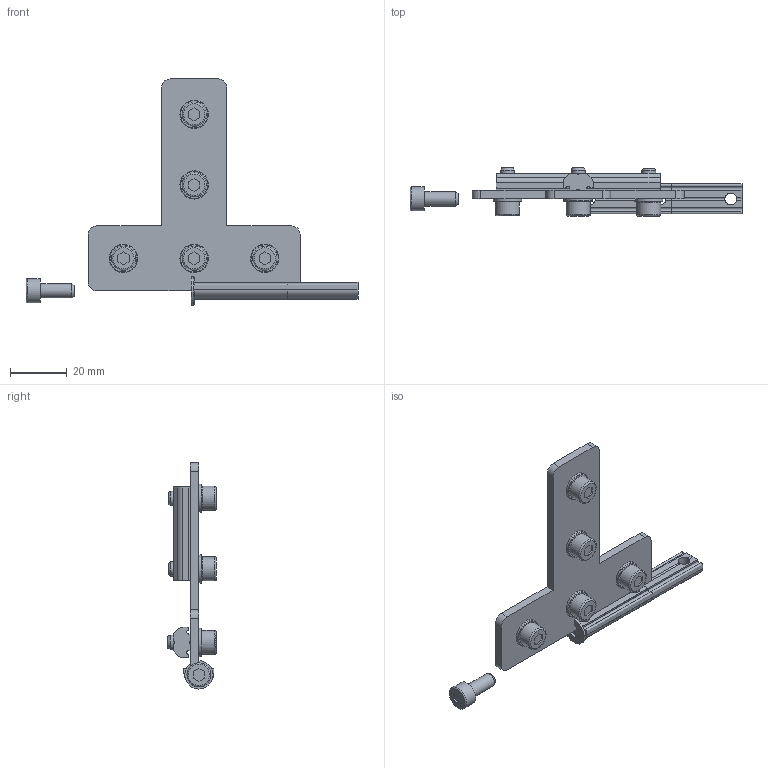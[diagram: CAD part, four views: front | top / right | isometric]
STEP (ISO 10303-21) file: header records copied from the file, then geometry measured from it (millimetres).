
FILE_DESCRIPTION( ( 'STEP AP214' ), '1' );
FILE_NAME( 'C:/Users/Segreteria/Desktop/CA.VBT.X.50.75.stp', '2014-07-03T11:13:24', ( ' ' ), ( ' ' ), 'XStep 1.0', ' ', ' ' );
FILE_SCHEMA( ( 'CONFIG_CONTROL_DESIGN) ( )' ) );
Length unit declared in the file: metre
Products named in the file (10): Assem1; V-tcei M  5 x 12; CA.GWP.5.25.3; CA.GWP.5.25; VBT.X.75.75; R.5
Bounding box: 117.5 x 17.1 x 80 mm (x, y, z)
Volume: 31122.7 mm3; surface area: 25377.4 mm2
Topology: 22 solids, 22 shells, 336 faces, 830 edges, 538 vertices
Faces by surface type: plane 184, cylinder 116, torus 20, cone 16
Full cylindrical faces by diameter (mm): 4.134 x10, 5 x10, 5.2 x10, 5.3 x6, 8.5 x10, 10 x6
Entity records: 4993 total; most frequent: CARTESIAN_POINT 962, DIRECTION 794, ORIENTED_EDGE 712, EDGE_CURVE 356, AXIS2_PLACEMENT_3D 286, VERTEX_POINT 254, LINE 222, VECTOR 222
